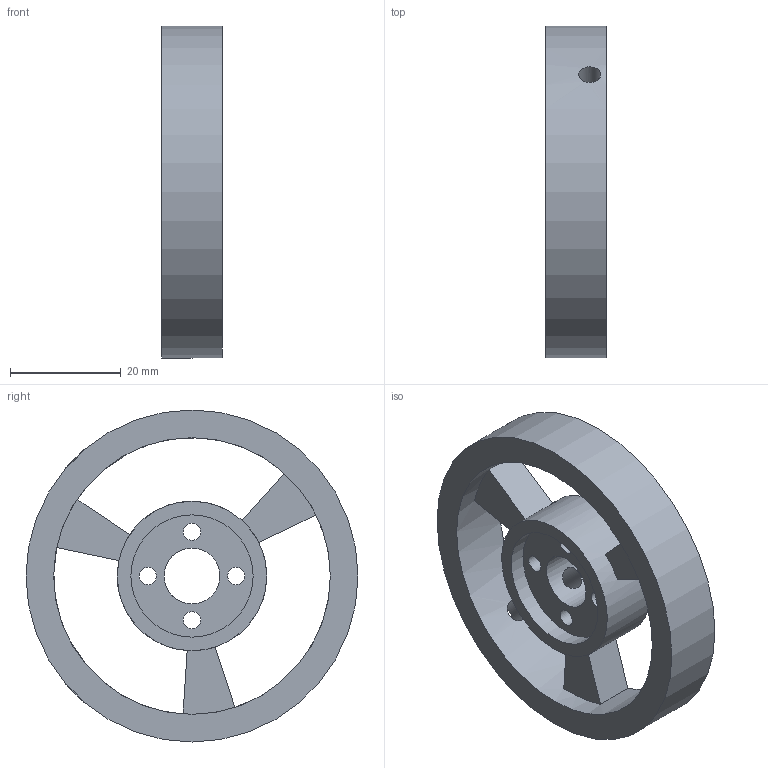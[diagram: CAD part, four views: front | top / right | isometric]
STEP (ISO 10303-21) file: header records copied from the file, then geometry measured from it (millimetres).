
FILE_DESCRIPTION(/* description */ (''),/* implementation_level */ '2;1');
FILE_NAME(/* name */ 'ejemplo_rueda_mejorada.step',/* time_stamp */ '2026-03-09T00:24:18+01:00',/* author */ (''),/* organization */ (''),/* preprocessor_version */ 'ST-DEVELOPER v20.1',/* originating_system */ 'Autodesk Translation Framework v14.24.0.0',/* authorisation */ '');
FILE_SCHEMA (('AUTOMOTIVE_DESIGN { 1 0 10303 214 3 1 1 }'));
Length unit declared in the file: millimetre
Products named in the file (2): Homero V1; rodes
Assembly tree (1 placements, depth 2):
  Homero V1
    rodes
Bounding box: 11 x 60 x 60 mm (x, y, z)
Volume: 15047.7 mm3; surface area: 9156.1 mm2
Topology: 1 solids, 1 shells, 54 faces, 156 edges, 107 vertices
Faces by surface type: plane 41, cylinder 13
Full cylindrical faces by diameter (mm): 3.1 x4, 4 x4, 10.1 x1, 22.1 x1, 27 x1, 50 x1, 60 x1
Entity records: 2144 total; most frequent: CARTESIAN_POINT 601, ORIENTED_EDGE 312, DIRECTION 283, EDGE_CURVE 156, LINE 109, VECTOR 109, VERTEX_POINT 107, AXIS2_PLACEMENT_3D 87
